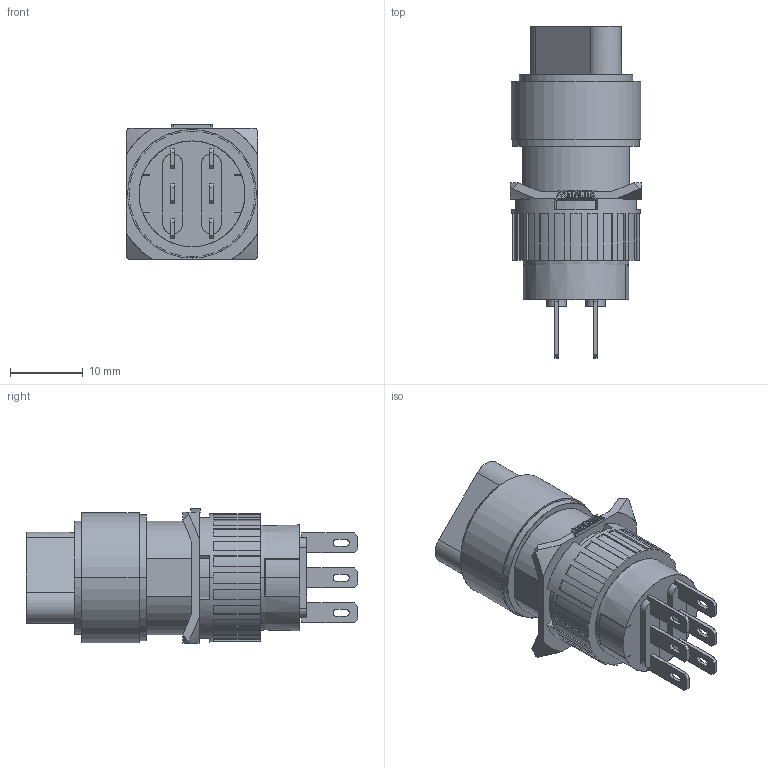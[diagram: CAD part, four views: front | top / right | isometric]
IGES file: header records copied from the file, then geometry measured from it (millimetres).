
Start section: SolidWorks IGES file using analytic representation for surfaces
Global section: file name: D:\X - Arquivos\PROEX\Empresas\P11 - METALTEX\01 - Produtos\IGES\Terceira remessa\Etapa 3\P16-L.IGS; native system: SolidWorks 2012; preprocessor: SolidWorks 2012; author: Usuario; date: 180215.132545; units: millimetre
Bounding box: 18 x 45.5 x 18.5 mm (x, y, z)
Surface area: 3860 mm2 (no closed solid volume)
Topology: 0 solids, 0 shells, 372 faces, 2832 edges, 2832 vertices
Faces by surface type: bspline 282, revolution 90
